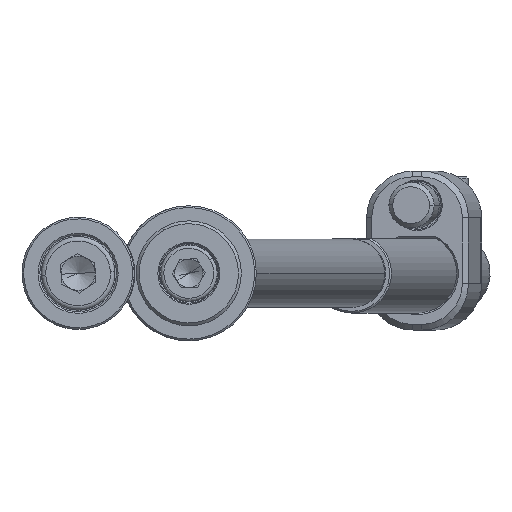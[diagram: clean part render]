
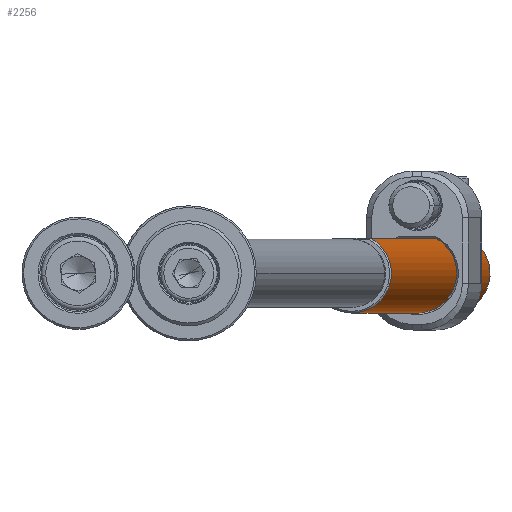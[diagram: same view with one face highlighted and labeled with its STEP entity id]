
A CAD part, front view. The second image highlights one B-rep face of the part: STEP entity #2256.
In plain terms, the highlighted cylindrical face has radius 7 mm (diameter 14 mm), a partial arc.
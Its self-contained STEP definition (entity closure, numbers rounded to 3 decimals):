
#253 = CARTESIAN_POINT ( 'NONE',  ( 6.1, -3.434, 12.052 ) ) ;
#513 = VERTEX_POINT ( 'NONE', #4505 ) ;
#880 = CARTESIAN_POINT ( 'NONE',  ( 6.1, -3.434, 7.948 ) ) ;
#1030 = CARTESIAN_POINT ( 'NONE',  ( -7., 0., 200. ) ) ;
#1179 = DIRECTION ( 'NONE',  ( 0., 0., -1. ) ) ;
#1453 = EDGE_CURVE ( 'NONE', #9988, #13722, #2030, .T. ) ;
#1579 = DIRECTION ( 'NONE',  ( 0., 0., -1. ) ) ;
#1704 = CARTESIAN_POINT ( 'NONE',  ( 6.2, -3.25, 200. ) ) ;
#1901 = EDGE_CURVE ( 'NONE', #7387, #513, #3073, .T. ) ;
#1982 = LINE ( 'NONE', #7571, #2701 ) ;
#2030 = CIRCLE ( 'NONE', #12030, 7. ) ;
#2041 = B_SPLINE_CURVE_WITH_KNOTS ( 'NONE', 3,
 ( #5840, #9981, #7799, #4542, #12544, #9192, #13633, #8097, #4760, #3673, #4312, #5602, #2131, #5538 ),
 .UNSPECIFIED., .F., .F.,
 ( 4, 2, 2, 2, 2, 2, 4 ),
 ( 0., 0.001, 0.001, 0.003, 0.004, 0.004, 0.005 ),
 .UNSPECIFIED. ) ;
#2131 = CARTESIAN_POINT ( 'NONE',  ( 6.049, -3.524, 8.099 ) ) ;
#2256 = ADVANCED_FACE ( 'NONE', ( #4189 ), #5195, .T. ) ;
#2329 = EDGE_CURVE ( 'NONE', #7387, #7432, #2041, .T. ) ;
#2387 = EDGE_CURVE ( 'NONE', #13722, #10111, #13163, .T. ) ;
#2622 = CARTESIAN_POINT ( 'NONE',  ( 6.2, -3.25, 12.5 ) ) ;
#2623 = CARTESIAN_POINT ( 'NONE',  ( 6.2, -3.25, 0.3 ) ) ;
#2695 = EDGE_CURVE ( 'NONE', #9988, #513, #1982, .T. ) ;
#2701 = VECTOR ( 'NONE', #10985, 1000. ) ;
#2702 = CARTESIAN_POINT ( 'NONE',  ( 6.131, -3.379, 12.204 ) ) ;
#2732 = VECTOR ( 'NONE', #7226, 1000. ) ;
#2786 = ORIENTED_EDGE ( 'NONE', *, *, #2329, .F. ) ;
#3073 = B_SPLINE_CURVE_WITH_KNOTS ( 'NONE', 3,
 ( #13526, #2702, #8135, #2622 ),
 .UNSPECIFIED., .F., .F.,
 ( 4, 4 ),
 ( 0., 0. ),
 .UNSPECIFIED. ) ;
#3125 = CARTESIAN_POINT ( 'NONE',  ( 6.1, -3.434, 7.948 ) ) ;
#3673 = CARTESIAN_POINT ( 'NONE',  ( 5.876, -3.805, 8.752 ) ) ;
#3697 = ORIENTED_EDGE ( 'NONE', *, *, #1901, .T. ) ;
#3910 = ORIENTED_EDGE ( 'NONE', *, *, #5600, .F. ) ;
#4189 = FACE_OUTER_BOUND ( 'NONE', #6728, .T. ) ;
#4312 = CARTESIAN_POINT ( 'NONE',  ( 5.915, -3.744, 8.582 ) ) ;
#4505 = CARTESIAN_POINT ( 'NONE',  ( 6.2, -3.25, 12.5 ) ) ;
#4532 = VERTEX_POINT ( 'NONE', #7389 ) ;
#4542 = CARTESIAN_POINT ( 'NONE',  ( 5.915, -3.744, 11.42 ) ) ;
#4760 = CARTESIAN_POINT ( 'NONE',  ( 5.78, -3.95, 9.275 ) ) ;
#4989 = AXIS2_PLACEMENT_3D ( 'NONE', #5033, #12939, #9744 ) ;
#5033 = CARTESIAN_POINT ( 'NONE',  ( 0., 0., 0.3 ) ) ;
#5176 = B_SPLINE_CURVE_WITH_KNOTS ( 'NONE', 3,
 ( #11809, #5239, #9458, #880 ),
 .UNSPECIFIED., .F., .F.,
 ( 4, 4 ),
 ( 0., 0. ),
 .UNSPECIFIED. ) ;
#5195 = CYLINDRICAL_SURFACE ( 'NONE', #9638, 7. ) ;
#5239 = CARTESIAN_POINT ( 'NONE',  ( 6.164, -3.317, 7.646 ) ) ;
#5538 = CARTESIAN_POINT ( 'NONE',  ( 6.1, -3.434, 7.948 ) ) ;
#5600 = EDGE_CURVE ( 'NONE', #4532, #7957, #9475, .T. ) ;
#5602 = CARTESIAN_POINT ( 'NONE',  ( 6.001, -3.604, 8.256 ) ) ;
#5840 = CARTESIAN_POINT ( 'NONE',  ( 6.1, -3.434, 12.052 ) ) ;
#6175 = CARTESIAN_POINT ( 'NONE',  ( -7., 0., 199.7 ) ) ;
#6441 = CARTESIAN_POINT ( 'NONE',  ( 0., 0., 200. ) ) ;
#6517 = DIRECTION ( 'NONE',  ( -1., 0., 0. ) ) ;
#6728 = EDGE_LOOP ( 'NONE', ( #10517, #6823, #7491, #3910, #9596, #2786, #3697, #11170 ) ) ;
#6823 = ORIENTED_EDGE ( 'NONE', *, *, #2387, .T. ) ;
#7226 = DIRECTION ( 'NONE',  ( 0., 0., -1. ) ) ;
#7387 = VERTEX_POINT ( 'NONE', #253 ) ;
#7389 = CARTESIAN_POINT ( 'NONE',  ( 6.2, -3.25, 7.5 ) ) ;
#7432 = VERTEX_POINT ( 'NONE', #3125 ) ;
#7491 = ORIENTED_EDGE ( 'NONE', *, *, #10409, .T. ) ;
#7571 = CARTESIAN_POINT ( 'NONE',  ( 6.2, -3.25, 200. ) ) ;
#7799 = CARTESIAN_POINT ( 'NONE',  ( 6.002, -3.604, 11.745 ) ) ;
#7957 = VERTEX_POINT ( 'NONE', #2623 ) ;
#8097 = CARTESIAN_POINT ( 'NONE',  ( 5.744, -4., 9.635 ) ) ;
#8135 = CARTESIAN_POINT ( 'NONE',  ( 6.164, -3.317, 12.354 ) ) ;
#8711 = VECTOR ( 'NONE', #1179, 1000. ) ;
#9192 = CARTESIAN_POINT ( 'NONE',  ( 5.781, -3.95, 10.729 ) ) ;
#9458 = CARTESIAN_POINT ( 'NONE',  ( 6.131, -3.379, 7.796 ) ) ;
#9475 = LINE ( 'NONE', #1704, #2732 ) ;
#9596 = ORIENTED_EDGE ( 'NONE', *, *, #10449, .T. ) ;
#9638 = AXIS2_PLACEMENT_3D ( 'NONE', #6441, #13181, #6517 ) ;
#9744 = DIRECTION ( 'NONE',  ( 1., 0., 0. ) ) ;
#9981 = CARTESIAN_POINT ( 'NONE',  ( 6.049, -3.524, 11.901 ) ) ;
#9988 = VERTEX_POINT ( 'NONE', #10494 ) ;
#10111 = VERTEX_POINT ( 'NONE', #13089 ) ;
#10409 = EDGE_CURVE ( 'NONE', #10111, #7957, #10788, .T. ) ;
#10441 = DIRECTION ( 'NONE',  ( 1., 0., 0. ) ) ;
#10449 = EDGE_CURVE ( 'NONE', #4532, #7432, #5176, .T. ) ;
#10494 = CARTESIAN_POINT ( 'NONE',  ( 6.2, -3.25, 199.7 ) ) ;
#10497 = CARTESIAN_POINT ( 'NONE',  ( 0., 0., 199.7 ) ) ;
#10517 = ORIENTED_EDGE ( 'NONE', *, *, #1453, .T. ) ;
#10788 = CIRCLE ( 'NONE', #4989, 7. ) ;
#10985 = DIRECTION ( 'NONE',  ( 0., 0., -1. ) ) ;
#11170 = ORIENTED_EDGE ( 'NONE', *, *, #2695, .F. ) ;
#11809 = CARTESIAN_POINT ( 'NONE',  ( 6.2, -3.25, 7.5 ) ) ;
#12030 = AXIS2_PLACEMENT_3D ( 'NONE', #10497, #1579, #10441 ) ;
#12544 = CARTESIAN_POINT ( 'NONE',  ( 5.876, -3.804, 11.25 ) ) ;
#12939 = DIRECTION ( 'NONE',  ( 0., 0., 1. ) ) ;
#13089 = CARTESIAN_POINT ( 'NONE',  ( -7., 0., 0.3 ) ) ;
#13163 = LINE ( 'NONE', #1030, #8711 ) ;
#13181 = DIRECTION ( 'NONE',  ( 0., 0., -1. ) ) ;
#13526 = CARTESIAN_POINT ( 'NONE',  ( 6.1, -3.434, 12.052 ) ) ;
#13633 = CARTESIAN_POINT ( 'NONE',  ( 5.745, -4., 10.372 ) ) ;
#13722 = VERTEX_POINT ( 'NONE', #6175 ) ;
